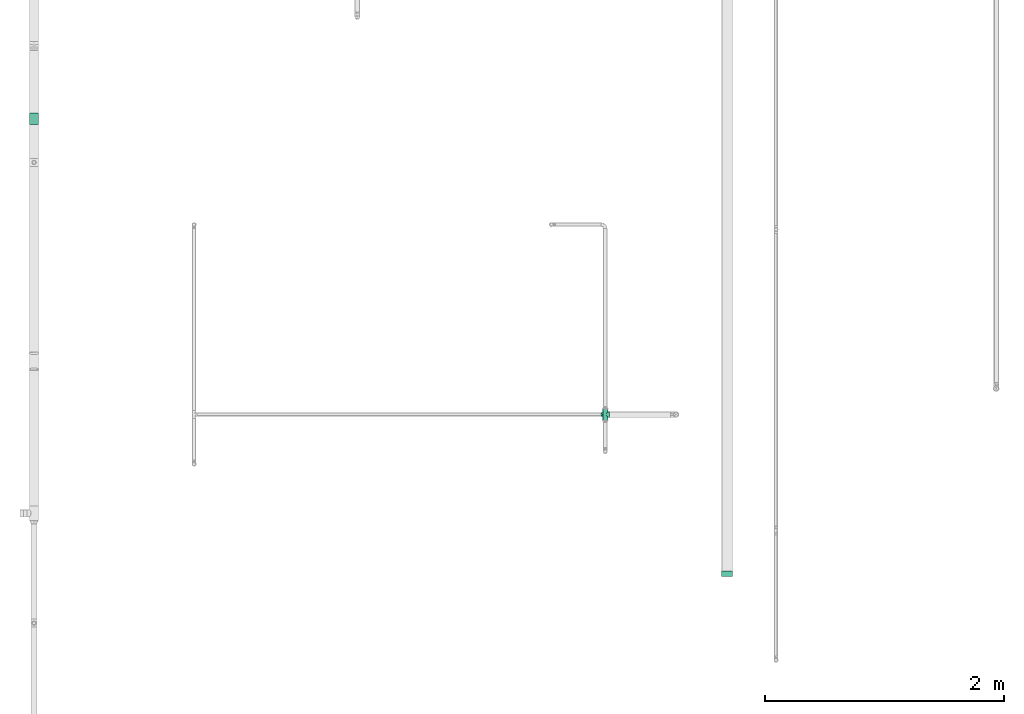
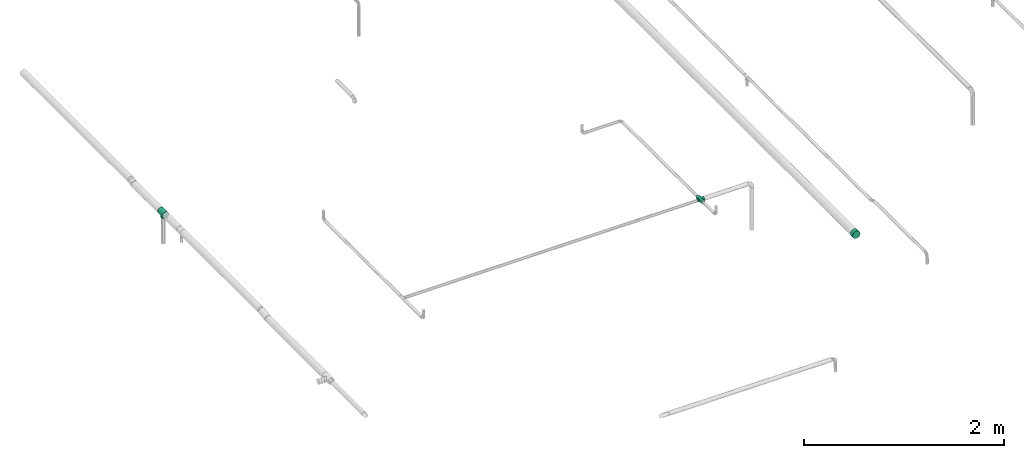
# One storey, part 27 of 32: 3 flow fittings.
"""IFC2X3 building model written with IfcOpenShell, lengths in millimetres."""

import ifcopenshell
import ifcopenshell.guid

model = None  # the IFC model being written
_history = None  # IfcOwnerHistory: only IFC2X3 demands one
_inside = {}  # id of a spatial element -> (the spatial element, [elements in it])
_under = {}  # id of a project, library or spatial element -> (it, [spatial elements below it])
_declared = {}  # id of a project -> (the project, [libraries it declares])
_typed = {}  # id of a type object -> (the type object, [elements of that type])
_made_of = {}  # id of a material, layer set ... -> (it, [elements and type objects made of it])


def new_model(schema):
    """Start an empty IFC model of exactly this schema.

    Asked for "IFC4X3", IfcOpenShell would pick the latest addendum, in which some entities
    have other attributes; the version numbers below select the first issue.
    IFC2X3 requires an IfcOwnerHistory on every rooted entity: one is made here for all.
    """
    global model, _history
    if schema == "IFC4X3":
        model = ifcopenshell.file(schema_version=(4, 3, 0, 0))
    else:
        model = ifcopenshell.file(schema=schema)
    _inside.clear()
    _under.clear()
    _declared.clear()
    _typed.clear()
    _made_of.clear()
    _history = None
    if model.schema == "IFC2X3":
        org = make("IfcOrganization", Name="unknown")
        user = make(
            "IfcPersonAndOrganization",
            ThePerson=make("IfcPerson", FamilyName="unknown"),
            TheOrganization=org,
        )
        app = make(
            "IfcApplication",
            ApplicationDeveloper=org,
            Version="unknown",
            ApplicationFullName="unknown",
            ApplicationIdentifier="unknown",
        )
        _history = make(
            "IfcOwnerHistory",
            OwningUser=user,
            OwningApplication=app,
            ChangeAction="ADDED",
            CreationDate=0,
        )
    return model


def make(cls, **values):
    """One entity of the class cls with the attributes given. An attribute that is None is left unset."""
    return model.create_entity(
        cls, **{name: value for name, value in values.items() if value is not None}
    )


def entity(cls, *values):
    """Any entity or typed value of the class cls, its attributes in the order of the schema. None: left unset."""
    e = model.create_entity(cls)
    for i, value in enumerate(values):
        if value is not None:
            e[i] = value
    return e


def rooted(cls, **values):
    """An entity with a GlobalId (a new one), such as an element, a storey or a relation."""
    return make(cls, GlobalId=ifcopenshell.guid.new(), OwnerHistory=_history, **values)


def si_unit(unit_type, name, prefix=None):
    """IfcSIUnit, for example si_unit("LENGTHUNIT", "METRE", prefix="MILLI")."""
    return make("IfcSIUnit", UnitType=unit_type, Prefix=prefix, Name=name)


def converted_unit(unit_type, name, factor, base, dimensions=None, offset=None):
    """IfcConversionBasedUnit, such as the inch: factor (a typed value) times the base unit."""
    return make(
        "IfcConversionBasedUnit"
        if offset is None
        else "IfcConversionBasedUnitWithOffset",
        ConversionOffset=offset,
        Dimensions=None
        if dimensions is None
        else entity("IfcDimensionalExponents", *dimensions),
        UnitType=unit_type,
        Name=name,
        ConversionFactor=make(
            "IfcMeasureWithUnit", ValueComponent=factor, UnitComponent=base
        ),
    )


def derived_unit(unit_type, elements):
    """IfcDerivedUnit: a product of units, each with its exponent."""
    return make(
        "IfcDerivedUnit",
        Elements=[
            make("IfcDerivedUnitElement", Unit=unit, Exponent=power)
            for unit, power in elements
        ],
        UnitType=unit_type,
    )


def assignment(units):
    """IfcUnitAssignment: the units of a project."""
    return None if units is None else make("IfcUnitAssignment", Units=units)


def point(xyz):
    """IfcCartesianPoint."""
    return None if xyz is None else make("IfcCartesianPoint", Coordinates=xyz)


def direction(xyz):
    """IfcDirection."""
    return None if xyz is None else make("IfcDirection", DirectionRatios=xyz)


def frame(location, z_axis=None, x_axis=None):
    """IfcAxis2Placement3D, a coordinate frame: its origin and axes. An axis left out is left unset."""
    return make(
        "IfcAxis2Placement3D",
        Location=point(location),
        Axis=direction(z_axis),
        RefDirection=direction(x_axis),
    )


def origin_with_axes():
    """The frame at (0, 0, 0) with the z axis (0, 0, 1) and the x axis (1, 0, 0) written out."""
    return frame((0.0, 0.0, 0.0), z_axis=(0.0, 0.0, 1.0), x_axis=(1.0, 0.0, 0.0))


def place(relative_to, where):
    """IfcLocalPlacement: puts the frame where relative to a parent placement (None: the world)."""
    return make(
        "IfcLocalPlacement", PlacementRelTo=relative_to, RelativePlacement=where
    )


def context(
    kind, dimensions, precision=None, world=None, true_north=None, identifier=None
):
    """IfcGeometricRepresentationContext, for example the 3D "Model" context."""
    return make(
        "IfcGeometricRepresentationContext",
        ContextIdentifier=identifier,
        ContextType=kind,
        CoordinateSpaceDimension=dimensions,
        Precision=precision,
        WorldCoordinateSystem=world,
        TrueNorth=true_north,
    )


def subcontext(parent, identifier, kind, view, scale=None):
    """IfcGeometricRepresentationSubContext, for example "Body" below "Model"."""
    return make(
        "IfcGeometricRepresentationSubContext",
        ContextIdentifier=identifier,
        ContextType=kind,
        ParentContext=parent,
        TargetScale=scale,
        TargetView=view,
    )


def project(units=None, contexts=None):
    """IfcProject with its units and contexts."""
    return rooted(
        "IfcProject",
        Name="project",
        RepresentationContexts=contexts,
        UnitsInContext=assignment(units),
    )


def spatial(cls, under=None, at=None, **own):
    """A site, building, storey or space (cls), placed at a placement, below another one or the project."""
    s = rooted(cls, ObjectPlacement=at, **own)
    if under is not None:
        _under.setdefault(under.id(), (under, []))[1].append(s)
    return s


def faces_of(points, faces, orient=None, outer=None):
    """IfcFace entities. A face is a list of loops; a loop is a list of indices into points, from 0.

    orient and outer hold one flag for each loop. By default every Orientation is true, the
    first loop of a face is its IfcFaceOuterBound and the others are IfcFaceBound.
    """
    made = []
    for i, loops in enumerate(faces):
        bounds = []
        for j, loop in enumerate(loops):
            is_outer = j == 0 if outer is None else outer[i][j]
            bounds.append(
                make(
                    "IfcFaceOuterBound" if is_outer else "IfcFaceBound",
                    Bound=make("IfcPolyLoop", Polygon=[points[k] for k in loop]),
                    Orientation=True if orient is None else orient[i][j],
                )
            )
        made.append(make("IfcFace", Bounds=bounds))
    return made


def open_shell(faces, orient=None, outer=None):
    """The faces of one IfcOpenShell. surface_model builds it on its shared points."""
    return ("IfcOpenShell", faces, orient, outer)


def surface_model(cls, points, shells):
    """IfcFaceBasedSurfaceModel or IfcShellBasedSurfaceModel (cls): surfaces that need not close."""
    shared = [point(p) for p in points]
    made = [make(c, CfsFaces=faces_of(shared, fs, o, b)) for c, fs, o, b in shells]
    if cls == "IfcFaceBasedSurfaceModel":
        return make(cls, FbsmFaces=made)
    return make(cls, SbsmBoundary=made)


def shape(context_of_items, identifier, shape_type, items):
    """IfcShapeRepresentation: the items that make up one representation, for example the "Body"."""
    return make(
        "IfcShapeRepresentation",
        ContextOfItems=context_of_items,
        RepresentationIdentifier=identifier,
        RepresentationType=shape_type,
        Items=items,
    )


def source(mapping_origin, context_of_items, identifier, shape_type, items):
    """IfcRepresentationMap: a shape defined once, which mapped items show again and again."""
    return make(
        "IfcRepresentationMap",
        MappingOrigin=mapping_origin,
        MappedRepresentation=shape(context_of_items, identifier, shape_type, items),
    )


def transform(
    local_origin,
    x_axis=None,
    y_axis=None,
    z_axis=None,
    scale=None,
    scale2=None,
    scale3=None,
    uniform=True,
):
    """IfcCartesianTransformationOperator3D, or its non-uniform kind. x_axis, y_axis, z_axis: its Axis1, 2, 3."""
    if uniform:
        return make(
            "IfcCartesianTransformationOperator3D",
            Axis1=direction(x_axis),
            Axis2=direction(y_axis),
            LocalOrigin=point(local_origin),
            Scale=scale,
            Axis3=direction(z_axis),
        )
    return make(
        "IfcCartesianTransformationOperator3DnonUniform",
        Axis1=direction(x_axis),
        Axis2=direction(y_axis),
        LocalOrigin=point(local_origin),
        Scale=scale,
        Axis3=direction(z_axis),
        Scale2=scale2,
        Scale3=scale3,
    )


def mapped(mapping_source, mapping_target):
    """IfcMappedItem: shows the shape of a source again, moved by a transform."""
    return make(
        "IfcMappedItem", MappingSource=mapping_source, MappingTarget=mapping_target
    )


def made_of(thing, what):
    """Note that an element or type object is made of a material, layer set ...; save() writes the relation."""
    if what is not None:
        _made_of.setdefault(what.id(), (what, []))[1].append(thing)
    return thing


def type_object(cls, material=None, **own):
    """A type object (cls), such as IfcWallType, which elements share."""
    return made_of(rooted(cls, **own), material)


def element(
    cls,
    number,
    at=None,
    inside=None,
    cuts=None,
    type_object=None,
    material=None,
    context=None,
    identifier="Body",
    shape_type=None,
    held_by="IfcProductDefinitionShape",
    body=None,
    shapes=None,
    **own,
):
    """One element of the class cls, such as IfcWall. Its Tag is "e" and its number.

    at: its placement. inside: the storey or other place that contains it. cuts: it is an
    opening in that element (IfcRelVoidsElement). A single representation is given by context,
    identifier, shape_type and body (its items); several are given by shapes. held_by: the class
    of the entity that holds the representations. save() writes the other relations.
    """
    e = rooted(cls, Tag="e%d" % number, ObjectPlacement=at, **own)
    if body is not None:
        shapes = [shape(context, identifier, shape_type, body)]
    if shapes is not None:
        e.Representation = make(held_by, Representations=shapes)
    if inside is not None:
        _inside.setdefault(inside.id(), (inside, []))[1].append(e)
    if cuts is not None:
        rooted(
            "IfcRelVoidsElement", RelatingBuildingElement=cuts, RelatedOpeningElement=e
        )
    if type_object is not None:
        _typed.setdefault(type_object.id(), (type_object, []))[1].append(e)
    return made_of(e, material)


def aggregate(whole, parts):
    """IfcRelAggregates: a whole, such as a stair, and the parts it consists of."""
    return rooted("IfcRelAggregates", RelatingObject=whole, RelatedObjects=parts)


def save(model, path):
    """Write the relations noted so far, then the file.

    IfcRelAggregates (storeys below a building ...), IfcRelContainedInSpatialStructure (elements
    in a storey), IfcRelDefinesByType, IfcRelAssociatesMaterial and IfcRelDeclares: one each for
    every whole, place, type object, material and project.
    """
    for whole, parts in _under.values():
        aggregate(whole, parts)
    for where, things in _inside.values():
        rooted(
            "IfcRelContainedInSpatialStructure",
            RelatedElements=things,
            RelatingStructure=where,
        )
    for kind, things in _typed.values():
        rooted("IfcRelDefinesByType", RelatedObjects=things, RelatingType=kind)
    for what, things in _made_of.values():
        rooted("IfcRelAssociatesMaterial", RelatedObjects=things, RelatingMaterial=what)
    for by, libraries in _declared.values():
        rooted("IfcRelDeclares", RelatingContext=by, RelatedDefinitions=libraries)
    model.write(path)


model = new_model("IFC2X3")

# Units and contexts
model_context = context("Model", 3, precision=0.01, world=frame((0.0, 4.29681676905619e-09, 0.0)), true_north=direction((4.01073788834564e-13, 1.0)))
plan_context = context("Plan", 3, precision=0.01, world=frame((0.0, 4.29681676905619e-09, 0.0)), true_north=direction((4.01073788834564e-13, 1.0)))
body_context = subcontext(model_context, "Body", "Model", "MODEL_VIEW")
ifc_project = project(units=[converted_unit("PLANEANGLEUNIT", "DEGREE", entity("IfcPositiveLengthMeasure", 0.0174532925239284), si_unit("PLANEANGLEUNIT", "RADIAN"), dimensions=[0, 0, 0, 0, 0, 0, 0]), si_unit("AREAUNIT", "SQUARE_METRE"), si_unit("LENGTHUNIT", "METRE", prefix="MILLI"), si_unit("MASSUNIT", "GRAM", prefix="KILO"), si_unit("POWERUNIT", "WATT"), si_unit("PRESSUREUNIT", "PASCAL", prefix="KILO"), si_unit("FORCEUNIT", "NEWTON", prefix="KILO"), si_unit("ELECTRICVOLTAGEUNIT", "VOLT"), si_unit("ELECTRICCURRENTUNIT", "AMPERE"), si_unit("THERMODYNAMICTEMPERATUREUNIT", "DEGREE_CELSIUS"), si_unit("TIMEUNIT", "SECOND"), si_unit("VOLUMEUNIT", "CUBIC_METRE"), derived_unit("LINEARVELOCITYUNIT", [(si_unit("LENGTHUNIT", "METRE"), 1), (si_unit("TIMEUNIT", "SECOND"), -1)]), derived_unit("VOLUMETRICFLOWRATEUNIT", [(si_unit("VOLUMEUNIT", "CUBIC_METRE"), 1), (si_unit("TIMEUNIT", "SECOND"), -1)]), derived_unit("THERMALTRANSMITTANCEUNIT", [(si_unit("POWERUNIT", "WATT"), 1), (si_unit("THERMODYNAMICTEMPERATUREUNIT", "KELVIN"), -1), (si_unit("AREAUNIT", "SQUARE_METRE"), -1)]), derived_unit("SOUNDPRESSUREUNIT", [(si_unit("PRESSUREUNIT", "PASCAL"), 1)])], contexts=[model_context, plan_context])

# Site, building, storey
site_placement = place(None, frame((0.0, -4.29681676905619e-09, 0.0), z_axis=(0.0, 0.0, 1.0), x_axis=(1.0, 0.0, 0.0)))
site = spatial("IfcSite", under=ifc_project, at=site_placement, CompositionType="ELEMENT")
building_placement = place(site_placement, frame((0.0, 4.29681676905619e-09, 0.0), z_axis=(0.0, 0.0, 1.0), x_axis=(1.0, 0.0, 0.0)))
building = spatial("IfcBuilding", under=site, at=building_placement, Name="mc-building", CompositionType="ELEMENT")
storey_placement = place(building_placement, frame((0.0, 0.0, 205200.0), z_axis=(0.0, 0.0, 1.0), x_axis=(1.0, 0.0, 0.0)))
storey = spatial("IfcBuildingStorey", under=building, at=storey_placement, Name="Nivå D + 1,2 m", CompositionType="ELEMENT", Elevation=205200.0)

# Flow fittings
pipe_fitting_type_1 = type_object("IfcPipeFittingType", Name="magi_pipe_fe_plug_001", PredefinedType="OBSTRUCTION")
shared_shape_1 = source(origin_with_axes(), body_context, "Body", "SurfaceModel", [
    surface_model("IfcShellBasedSurfaceModel", [(0.0, 11.51745, -42.9837), (0.0, 0.0, -44.5), (0.0, 31.46625, -31.46625), (0.0, 22.25, -38.53813), (0.0, 38.53813, -22.25), (0.0, 22.25, 38.53813), (0.0, -31.46625, -31.46625), (0.0, -44.5, 0.0), (0.0, -22.25, -38.53813), (0.0, -11.51745, -42.9837), (0.0, -42.9837, -11.51745), (0.0, -38.53813, -22.25), (0.0, 42.9837, -11.51745), (0.0, 42.9837, 11.51745), (0.0, 44.5, 0.0), (0.0, 38.53813, 22.25), (0.0, 31.46625, 31.46625), (0.0, -22.25, 38.53813), (0.0, 11.51745, 42.9837), (0.0, 0.0, 44.5), (0.0, -31.46625, 31.46625), (0.0, -38.53813, 22.25), (0.0, -42.9837, 11.51745), (0.0, -11.51745, 42.9837), (44.5, 31.46625, -31.46625), (44.5, 0.0, -44.5), (44.5, 11.51745, -42.9837), (44.5, 22.25, -38.53813), (44.5, 22.25, 38.53813), (44.5, 38.53813, -22.25), (44.5, -31.46625, -31.46625), (44.5, -11.51745, -42.9837), (44.5, -22.25, -38.53813), (44.5, -38.53813, -22.25), (44.5, -44.5, 0.0), (44.5, -42.9837, -11.51745), (44.5, -22.25, 38.53813), (44.5, 42.9837, -11.51745), (44.5, 44.5, 0.0), (44.5, 42.9837, 11.51745), (44.5, 31.46625, 31.46625), (44.5, 38.53813, 22.25), (44.5, 0.0, 44.5), (44.5, 11.51745, 42.9837), (44.5, -38.53813, 22.25), (44.5, -31.46625, 31.46625), (44.5, -42.9837, 11.51745), (44.5, -11.51745, 42.9837)], [open_shell([[[0, 1, 2]], [[3, 0, 2]], [[4, 2, 5]], [[6, 2, 1]], [[2, 7, 5]], [[8, 6, 9]], [[6, 1, 9]], [[10, 7, 11]], [[6, 11, 7]], [[6, 7, 2]], [[12, 4, 5]], [[13, 14, 5]], [[15, 13, 16]], [[5, 7, 17]], [[16, 13, 5]], [[18, 5, 19]], [[20, 17, 21]], [[7, 22, 21]], [[17, 7, 21]], [[17, 23, 5]], [[23, 19, 5]], [[14, 12, 5]], [[24, 25, 26]], [[24, 26, 27]], [[28, 24, 29]], [[25, 24, 30]], [[24, 28, 30]], [[31, 30, 32]], [[31, 25, 30]], [[33, 34, 35]], [[34, 33, 30]], [[30, 36, 34]], [[28, 29, 37]], [[28, 38, 39]], [[40, 39, 41]], [[36, 30, 28]], [[28, 39, 40]], [[42, 28, 43]], [[44, 36, 45]], [[44, 46, 34]], [[44, 34, 36]], [[28, 47, 36]], [[28, 42, 47]], [[28, 37, 38]], [[46, 7, 34]], [[44, 22, 46]], [[36, 47, 17]], [[44, 45, 21]], [[45, 36, 20]], [[44, 21, 22]], [[22, 7, 46]], [[23, 17, 47]], [[23, 47, 19]], [[20, 21, 45]], [[20, 36, 17]], [[47, 42, 19]], [[5, 43, 28]], [[40, 16, 28]], [[13, 41, 39]], [[40, 41, 15]], [[14, 39, 38]], [[43, 18, 42]], [[43, 5, 18]], [[42, 18, 19]], [[28, 16, 5]], [[40, 15, 16]], [[13, 15, 41]], [[39, 14, 13]], [[37, 14, 38]], [[29, 12, 37]], [[2, 24, 27]], [[29, 24, 4]], [[3, 27, 26]], [[29, 4, 12]], [[12, 14, 37]], [[25, 1, 0]], [[2, 27, 3]], [[2, 4, 24]], [[26, 0, 3]], [[0, 26, 25]], [[8, 31, 32]], [[30, 6, 32]], [[10, 33, 35]], [[30, 33, 11]], [[7, 35, 34]], [[31, 9, 25]], [[31, 8, 9]], [[25, 9, 1]], [[32, 6, 8]], [[30, 11, 6]], [[10, 11, 33]], [[35, 7, 10]]])]),
])
flow_fitting_1_placement = place(storey_placement, frame((329287.41659, 461167.22069, 4392.43145999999), z_axis=(0.0, 0.0, 1.0), x_axis=(0.0, -1.0, 0.0)))
element("IfcFlowFitting", 1, at=flow_fitting_1_placement, inside=storey, type_object=pipe_fitting_type_1, Name="magi_pipe_fe_plug_001", context=body_context, shape_type="MappedRepresentation", body=[
    mapped(shared_shape_1, transform((0.0, 0.0, 0.0), scale=1.0)),
])
pipe_fitting_type_2 = type_object("IfcPipeFittingType", Name="magi_pipe_fe_tee_centric_90_001", PredefinedType="JUNCTION")
shared_shape_2 = source(origin_with_axes(), body_context, "Body", "SurfaceModel", [
    surface_model("IfcShellBasedSurfaceModel", [(-48.4, 9.86101, -36.80177), (-48.4, 0.0, -38.1), (-48.4, 36.80177, -9.86101), (-48.4, 19.05, -32.99557), (-48.4, 32.99557, -19.05), (-48.4, 26.94077, -26.94077), (-48.4, -38.1, 0.0), (-48.4, -19.05, -32.99557), (-48.4, -26.94077, -26.94077), (-48.4, -9.86101, -36.80177), (-48.4, -32.99557, -19.05), (-48.4, -36.80177, -9.86101), (-48.4, 38.1, 0.0), (-48.4, 32.99557, 19.05), (-48.4, 36.80177, 9.86101), (-48.4, -36.80177, 9.86101), (-48.4, 19.05, 32.99557), (-48.4, 26.94077, 26.94077), (-48.4, 9.86101, 36.80177), (-48.4, 0.0, 38.1), (-48.4, -26.94077, 26.94077), (-48.4, -32.99557, 19.05), (-48.4, -9.86101, 36.80177), (-48.4, -19.05, 32.99557), (48.4, 0.0, -38.1), (48.4, 9.86101, -36.80177), (48.4, 19.05, -32.99557), (48.4, 26.94077, -26.94077), (48.4, 32.99557, -19.05), (48.4, 36.80177, -9.86101), (48.4, -26.94077, -26.94077), (48.4, -38.1, 0.0), (48.4, -9.86101, -36.80177), (48.4, -19.05, -32.99557), (48.4, -32.99557, -19.05), (48.4, -36.80177, -9.86101), (48.4, 36.80177, 9.86101), (48.4, 32.99557, 19.05), (48.4, 19.05, 32.99557), (48.4, 0.0, 38.1), (48.4, 26.94077, 26.94077), (48.4, 9.86101, 36.80177), (48.4, -32.99557, 19.05), (48.4, -26.94077, 26.94077), (48.4, -36.80177, 9.86101), (48.4, -19.05, 32.99557), (48.4, -9.86101, 36.80177), (48.4, 38.1, 0.0), (22.67163, -37.14799, 8.46387), (24.2, -38.1, 0.0), (18.4612, -34.73882, 15.64686), (12.20123, -31.85656, 20.89904), (4.31503, -29.74205, 23.81219), (48.4, -34.89867, 14.4555), (-18.46661, -34.7417, 15.64047), (-48.4, -34.89867, 14.4555), (-24.2, -38.1, 0.0), (-22.67247, -37.1485, 8.46164), (-12.20341, -31.85739, 20.89777), (-4.32227, -29.7431, 23.81088), (12.20123, -31.85656, -20.89904), (-18.46661, -34.7417, -15.64047), (-48.4, -34.89867, -14.4555), (4.31503, -29.74205, -23.81219), (18.4612, -34.73882, -15.64686), (22.67163, -37.14799, -8.46387), (48.4, -34.89867, -14.4555), (-4.32227, -29.7431, -23.81088), (-12.20341, -31.85739, -20.89777), (-22.67247, -37.1485, -8.46164), (0.0, -57.15, -24.2), (6.26342, -57.15, -23.37541), (12.1, -57.15, -20.95781), (12.1, -57.15, 20.95781), (17.11198, -57.15, -17.11198), (20.95781, -57.15, -12.1), (23.37541, -57.15, -6.26342), (-12.1, -57.15, -20.95781), (-20.95781, -57.15, -12.1), (-17.11198, -57.15, -17.11198), (-6.26342, -57.15, -23.37541), (-23.37541, -57.15, -6.26342), (-24.2, -57.15, 0.0), (24.2, -57.15, 0.0), (23.37541, -57.15, 6.26342), (20.95781, -57.15, 12.1), (-23.37541, -57.15, 6.26342), (17.11198, -57.15, 17.11198), (6.26342, -57.15, 23.37541), (-17.11198, -57.15, 17.11198), (-20.95781, -57.15, 12.1), (-12.1, -57.15, 20.95781), (0.0, -57.15, 24.2), (-6.26342, -57.15, 23.37541), (-23.43623, -37.62425, 4.23082), (-0.00362, -29.74257, 23.81153), (8.25813, -30.7993, 22.35562), (23.43582, -37.62399, 4.23193), (23.43582, -37.62399, -4.23193), (-23.43623, -37.62425, -4.23082), (8.25813, -30.7993, -22.35562), (-0.00362, -29.74257, -23.81153)], [open_shell([[[0, 1, 2]], [[3, 0, 2]], [[2, 4, 5]], [[3, 2, 5]], [[6, 2, 1]], [[7, 8, 9]], [[8, 1, 9]], [[10, 11, 8]], [[6, 8, 11]], [[8, 6, 1]], [[6, 12, 2]], [[13, 14, 12]], [[13, 12, 15]], [[16, 13, 15]], [[17, 13, 16]], [[18, 16, 19]], [[20, 19, 21]], [[16, 15, 21]], [[22, 19, 23]], [[20, 23, 19]], [[21, 19, 16]], [[6, 15, 12]], [[24, 25, 26]], [[24, 26, 27]], [[27, 28, 29]], [[24, 27, 30]], [[31, 27, 29]], [[32, 30, 33]], [[32, 24, 30]], [[34, 31, 35]], [[31, 34, 30]], [[27, 31, 30]], [[29, 36, 31]], [[36, 37, 31]], [[31, 37, 38]], [[38, 39, 31]], [[38, 37, 40]], [[39, 38, 41]], [[42, 39, 43]], [[44, 31, 42]], [[45, 39, 46]], [[39, 45, 43]], [[39, 42, 31]], [[36, 29, 47]], [[31, 44, 48]], [[48, 49, 31]], [[44, 50, 48]], [[42, 43, 51]], [[51, 50, 42]], [[52, 51, 43]], [[43, 20, 52]], [[42, 50, 53]], [[54, 21, 55]], [[56, 57, 6]], [[15, 6, 57]], [[57, 54, 15]], [[58, 59, 20]], [[58, 21, 54]], [[21, 58, 20]], [[54, 55, 15]], [[59, 52, 20]], [[50, 44, 53]], [[43, 23, 20]], [[19, 46, 39]], [[22, 45, 46]], [[18, 39, 41]], [[37, 36, 14]], [[17, 38, 40]], [[13, 40, 37]], [[41, 38, 16]], [[12, 36, 47]], [[23, 45, 22]], [[22, 46, 19]], [[18, 19, 39]], [[41, 16, 18]], [[16, 38, 17]], [[13, 17, 40]], [[14, 13, 37]], [[36, 12, 14]], [[45, 23, 43]], [[12, 47, 29]], [[28, 27, 4]], [[2, 29, 28]], [[24, 32, 9]], [[0, 26, 25]], [[1, 25, 24]], [[26, 3, 27]], [[7, 32, 33]], [[4, 27, 5]], [[12, 29, 2]], [[2, 28, 4]], [[5, 27, 3]], [[26, 0, 3]], [[1, 0, 25]], [[9, 1, 24]], [[32, 7, 9]], [[33, 8, 7]], [[30, 34, 60]], [[61, 11, 62]], [[60, 63, 30]], [[34, 64, 60]], [[30, 63, 8]], [[35, 31, 65]], [[65, 64, 35]], [[49, 65, 31]], [[35, 64, 66]], [[67, 68, 8]], [[64, 34, 66]], [[10, 8, 68]], [[68, 61, 10]], [[67, 8, 63]], [[61, 69, 11]], [[69, 6, 11]], [[6, 69, 56]], [[61, 62, 10]], [[30, 8, 33]], [[70, 71, 72]], [[73, 70, 72]], [[74, 75, 76]], [[74, 76, 72]], [[73, 77, 70]], [[77, 78, 79]], [[77, 80, 70]], [[77, 81, 78]], [[81, 77, 82]], [[77, 73, 82]], [[83, 72, 76]], [[83, 84, 85]], [[83, 85, 73]], [[73, 86, 82]], [[73, 85, 87]], [[86, 73, 88]], [[86, 89, 90]], [[86, 88, 89]], [[91, 92, 93]], [[92, 91, 89]], [[88, 92, 89]], [[73, 72, 83]], [[86, 94, 82]], [[54, 90, 89]], [[86, 90, 57]], [[89, 91, 58]], [[94, 56, 82]], [[57, 90, 54]], [[58, 93, 59]], [[58, 54, 89]], [[92, 52, 95]], [[58, 91, 93]], [[73, 96, 88]], [[97, 83, 49]], [[86, 57, 94]], [[88, 52, 92]], [[48, 85, 84]], [[97, 48, 84]], [[85, 50, 87]], [[92, 59, 93]], [[96, 52, 88]], [[73, 51, 96]], [[73, 87, 51]], [[51, 87, 50]], [[50, 85, 48]], [[83, 97, 84]], [[95, 59, 92]], [[76, 98, 83]], [[64, 75, 74]], [[99, 69, 81]], [[76, 75, 65]], [[74, 72, 60]], [[98, 49, 83]], [[65, 75, 64]], [[71, 63, 100]], [[60, 64, 74]], [[70, 67, 101]], [[70, 63, 71]], [[100, 60, 72]], [[100, 72, 71]], [[76, 65, 98]], [[68, 77, 79]], [[68, 80, 77]], [[69, 78, 81]], [[79, 78, 61]], [[99, 82, 56]], [[67, 70, 80]], [[80, 68, 67]], [[101, 63, 70]], [[68, 79, 61]], [[61, 78, 69]], [[82, 99, 81]]])]),
])
flow_fitting_2_placement = place(storey_placement, frame((323497.5, 464949.29062, 4367.43145999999), z_axis=(1.0, 0.0, 0.0), x_axis=(0.0, 1.0, 0.0)))
element("IfcFlowFitting", 2, at=flow_fitting_2_placement, inside=storey, type_object=pipe_fitting_type_2, Name="magi_pipe_fe_tee_centric_90_001", context=body_context, shape_type="MappedRepresentation", body=[
    mapped(shared_shape_2, transform((0.0, 0.0, 0.0), scale=1.0)),
])
pipe_fitting_type_3 = type_object("IfcPipeFittingType", Name="magi_pipe_fe_cross_centric_90_001", PredefinedType="JUNCTION")
shared_shape_3 = source(origin_with_axes(), body_context, "Body", "SurfaceModel", [
    surface_model("IfcShellBasedSurfaceModel", [(-48.4, 12.1, -20.95781), (-48.4, 6.26342, -23.37541), (-48.4, 17.11198, -17.11198), (-48.4, -20.95781, 12.1), (-48.4, -17.11198, 17.11198), (-48.4, -23.37541, 6.26342), (4.37404, -36.3, -16.32415), (-16.9, -36.3, 0.0), (0.0, -36.3, -16.9), (14.63583, -36.3, -8.45), (8.45, -36.3, -14.63583), (16.32415, -36.3, -4.37404), (11.9501, -36.3, -11.9501), (-11.9501, -36.3, -11.9501), (-8.45, -36.3, -14.63583), (-4.37404, -36.3, -16.32415), (-14.63583, -36.3, -8.45), (-16.32415, -36.3, -4.37404), (16.9, -36.3, 0.0), (8.45, -36.3, 14.63583), (16.32415, -36.3, 4.37404), (14.63583, -36.3, 8.45), (-8.45, -36.3, 14.63583), (11.9501, -36.3, 11.9501), (4.37404, -36.3, 16.32415), (-16.32415, -36.3, 4.37404), (-11.9501, -36.3, 11.9501), (-14.63583, -36.3, 8.45), (0.0, -36.3, 16.9), (-4.37404, -36.3, 16.32415), (-16.35943, -23.82888, 2.9738), (-12.87368, -21.58151, 10.9489), (-15.81885, -23.45775, 5.9476), (-8.52961, -19.30762, 14.58958), (-16.9, -24.2, 0.0), (16.35912, -23.82867, 2.97461), (15.81824, -23.45734, 5.94922), (-3.04044, -17.58619, 16.62425), (3.03527, -17.5853, 16.6252), (-0.00259, -17.58575, 16.62472), (8.52813, -19.30697, 14.59044), (12.87025, -21.57947, 10.95293), (16.9, -24.2, 0.0), (16.35912, -23.82867, -2.97461), (12.87025, -21.57947, -10.95293), (15.81824, -23.45734, -5.94922), (8.52813, -19.30697, -14.59044), (3.03527, -17.5853, -16.6252), (-3.04044, -17.58619, -16.62425), (-0.00259, -17.58575, -16.62472), (-16.35943, -23.82888, -2.9738), (-15.81885, -23.45775, -5.9476), (-12.87368, -21.58151, -10.9489), (-8.52961, -19.30762, -14.58958), (-48.4, 0.0, -24.2), (-48.4, -6.26342, -23.37541), (-48.4, 20.95781, -12.1), (-48.4, -23.37541, -6.26342), (-48.4, 23.37541, -6.26342), (-48.4, -12.1, -20.95781), (-48.4, -17.11198, -17.11198), (-48.4, -20.95781, -12.1), (-48.4, -24.2, 0.0), (-48.4, 20.95781, 12.1), (-48.4, 23.37541, 6.26342), (-48.4, 24.2, 0.0), (-48.4, 12.1, 20.95781), (-48.4, 17.11198, 17.11198), (-48.4, 6.26342, 23.37541), (-48.4, -12.1, 20.95781), (-48.4, -6.26342, 23.37541), (-48.4, 0.0, 24.2), (48.4, 6.26342, -23.37541), (48.4, -6.26342, -23.37541), (48.4, 0.0, -24.2), (48.4, 17.11198, -17.11198), (48.4, 12.1, -20.95781), (48.4, -23.37541, -6.26342), (48.4, 20.95781, -12.1), (48.4, 23.37541, -6.26342), (48.4, -17.11198, -17.11198), (48.4, -12.1, -20.95781), (48.4, -20.95781, -12.1), (48.4, -24.2, 0.0), (48.4, 24.2, 0.0), (48.4, 23.37541, 6.26342), (48.4, 20.95781, 12.1), (48.4, -23.37541, 6.26342), (48.4, -17.11198, 17.11198), (48.4, 12.1, 20.95781), (48.4, 17.11198, 17.11198), (48.4, 6.26342, 23.37541), (48.4, -20.95781, 12.1), (48.4, -12.1, 20.95781), (48.4, 0.0, 24.2), (48.4, -6.26342, 23.37541), (0.0, 0.0, 24.2), (-4.647, 4.647, 23.74964), (4.647, 4.647, 23.74964), (9.20594, 9.20594, 22.38059), (13.56365, 13.56365, 20.04164), (17.56065, 17.56065, 16.65123), (23.32218, 23.32218, 6.45878), (24.2, 24.2, 0.0), (20.94524, 20.94524, 12.12176), (-9.20594, 9.20594, 22.38059), (-13.56365, 13.56365, 20.04164), (-17.56065, 17.56065, 16.65123), (-20.94524, 20.94524, 12.12176), (-23.32218, 23.32218, 6.45878), (-24.2, 24.2, 0.0), (23.32218, 23.32218, -6.45878), (20.94524, 20.94524, -12.12176), (17.56065, 17.56065, -16.65123), (13.56365, 13.56365, -20.04164), (9.20594, 9.20594, -22.38059), (-23.32218, 23.32218, -6.45878), (-20.94524, 20.94524, -12.12176), (-17.56065, 17.56065, -16.65123), (-9.20594, 9.20594, -22.38059), (-4.647, 4.647, -23.74964), (-13.56365, 13.56365, -20.04164), (4.647, 4.647, -23.74964), (0.0, 0.0, -24.2), (0.0, 36.3, -24.2), (-6.26342, 36.3, -23.37541), (-12.1, 36.3, -20.95781), (-17.11198, 36.3, -17.11198), (-20.95781, 36.3, -12.1), (-23.37541, 36.3, -6.26342), (24.2, 36.3, 0.0), (23.37541, 36.3, 6.26342), (12.1, 36.3, -20.95781), (20.95781, 36.3, -12.1), (17.11198, 36.3, -17.11198), (6.26342, 36.3, -23.37541), (23.37541, 36.3, -6.26342), (-24.2, 36.3, 0.0), (-23.37541, 36.3, 6.26342), (-20.95781, 36.3, 12.1), (-17.11198, 36.3, 17.11198), (17.11198, 36.3, 17.11198), (-12.1, 36.3, 20.95781), (-6.26342, 36.3, 23.37541), (20.95781, 36.3, 12.1), (6.26342, 36.3, 23.37541), (12.1, 36.3, 20.95781), (0.0, 36.3, 24.2)], [open_shell([[[0, 1, 2]], [[3, 4, 5]], [[6, 7, 8]], [[9, 6, 10]], [[9, 11, 6]], [[9, 10, 12]], [[7, 6, 11]], [[8, 13, 14]], [[14, 15, 8]], [[16, 7, 17]], [[13, 8, 16]], [[7, 16, 8]], [[11, 18, 7]], [[19, 18, 20]], [[19, 20, 21]], [[22, 7, 19]], [[19, 21, 23]], [[22, 19, 24]], [[25, 26, 27]], [[26, 25, 22]], [[22, 28, 29]], [[25, 7, 22]], [[24, 28, 22]], [[19, 7, 18]], [[25, 30, 7]], [[31, 27, 26]], [[25, 27, 32]], [[26, 22, 33]], [[25, 32, 30]], [[30, 34, 7]], [[32, 27, 31]], [[35, 36, 20]], [[33, 29, 37]], [[33, 31, 26]], [[28, 38, 39]], [[33, 22, 29]], [[38, 28, 24]], [[19, 40, 24]], [[23, 21, 41]], [[23, 40, 19]], [[36, 21, 20]], [[23, 41, 40]], [[40, 38, 24]], [[18, 35, 20]], [[36, 41, 21]], [[35, 18, 42]], [[28, 37, 29]], [[39, 37, 28]], [[11, 43, 18]], [[44, 9, 12]], [[11, 9, 45]], [[12, 10, 46]], [[43, 42, 18]], [[45, 9, 44]], [[46, 6, 47]], [[46, 44, 12]], [[8, 48, 49]], [[46, 10, 6]], [[50, 7, 34]], [[50, 51, 17]], [[11, 45, 43]], [[15, 48, 8]], [[51, 16, 17]], [[13, 16, 52]], [[8, 47, 6]], [[15, 53, 48]], [[53, 15, 14]], [[14, 13, 53]], [[53, 13, 52]], [[52, 16, 51]], [[7, 50, 17]], [[49, 47, 8]], [[54, 55, 1]], [[56, 1, 57]], [[2, 1, 56]], [[58, 56, 57]], [[59, 60, 55]], [[61, 55, 60]], [[55, 61, 1]], [[61, 57, 1]], [[57, 62, 58]], [[62, 5, 58]], [[63, 64, 65]], [[63, 65, 5]], [[66, 67, 4]], [[5, 67, 63]], [[68, 66, 4]], [[4, 67, 5]], [[69, 70, 4]], [[71, 4, 70]], [[4, 71, 68]], [[58, 5, 65]], [[72, 73, 74]], [[75, 72, 76]], [[77, 72, 78]], [[78, 72, 75]], [[77, 78, 79]], [[73, 80, 81]], [[80, 73, 82]], [[72, 82, 73]], [[72, 77, 82]], [[79, 83, 77]], [[79, 84, 83]], [[84, 85, 86]], [[87, 84, 86]], [[88, 86, 89]], [[89, 86, 90]], [[88, 89, 91]], [[87, 88, 92]], [[87, 86, 88]], [[93, 94, 95]], [[94, 93, 88]], [[91, 94, 88]], [[84, 87, 83]], [[36, 83, 87]], [[41, 87, 92]], [[36, 42, 83]], [[41, 36, 87]], [[92, 40, 41]], [[69, 38, 93]], [[95, 70, 93]], [[40, 88, 38]], [[88, 40, 92]], [[38, 88, 93]], [[95, 94, 96]], [[32, 31, 5]], [[34, 32, 62]], [[32, 5, 62]], [[5, 31, 3]], [[31, 33, 3]], [[4, 33, 37]], [[95, 96, 70]], [[37, 38, 69]], [[4, 37, 69]], [[93, 70, 69]], [[96, 71, 70]], [[71, 96, 97]], [[33, 4, 3]], [[96, 94, 98]], [[99, 91, 89]], [[100, 89, 90]], [[99, 98, 91]], [[100, 99, 89]], [[90, 101, 100]], [[91, 98, 94]], [[102, 86, 85]], [[103, 85, 84]], [[104, 101, 86]], [[103, 102, 85]], [[104, 86, 102]], [[86, 101, 90]], [[105, 106, 66]], [[97, 105, 68]], [[105, 66, 68]], [[66, 106, 67]], [[106, 107, 67]], [[97, 68, 71]], [[108, 109, 63]], [[107, 108, 63]], [[63, 109, 64]], [[110, 65, 64]], [[109, 110, 64]], [[107, 63, 67]], [[103, 84, 79]], [[111, 79, 78]], [[111, 103, 79]], [[112, 111, 78]], [[78, 113, 112]], [[114, 75, 76]], [[115, 76, 72]], [[114, 113, 75]], [[115, 114, 76]], [[75, 113, 78]], [[116, 117, 56]], [[110, 116, 58]], [[110, 58, 65]], [[58, 116, 56]], [[117, 118, 56]], [[119, 120, 1]], [[121, 119, 0]], [[118, 2, 56]], [[118, 121, 2]], [[2, 121, 0]], [[119, 1, 0]], [[120, 54, 1]], [[115, 72, 122]], [[81, 59, 73]], [[47, 81, 80]], [[122, 74, 123]], [[74, 122, 72]], [[73, 123, 74]], [[47, 59, 81]], [[80, 46, 47]], [[44, 82, 77]], [[45, 77, 83]], [[44, 46, 82]], [[42, 45, 83]], [[44, 77, 45]], [[82, 46, 80]], [[55, 54, 123]], [[54, 120, 123]], [[59, 47, 48]], [[73, 59, 55]], [[73, 55, 123]], [[59, 48, 60]], [[48, 53, 60]], [[52, 51, 57]], [[53, 52, 61]], [[61, 52, 57]], [[62, 57, 51]], [[34, 62, 51]], [[53, 61, 60]], [[124, 125, 126]], [[124, 126, 127]], [[127, 128, 129]], [[130, 124, 131]], [[127, 131, 124]], [[132, 133, 134]], [[132, 135, 124]], [[124, 133, 132]], [[124, 136, 133]], [[130, 136, 124]], [[127, 129, 137]], [[137, 138, 139]], [[137, 139, 140]], [[141, 140, 142]], [[140, 131, 137]], [[141, 142, 143]], [[131, 141, 144]], [[131, 140, 141]], [[141, 145, 146]], [[145, 141, 147]], [[143, 147, 141]], [[137, 131, 127]], [[130, 131, 103]], [[102, 103, 131]], [[141, 146, 100]], [[102, 131, 144]], [[141, 101, 144]], [[99, 146, 145]], [[104, 102, 144]], [[101, 104, 144]], [[99, 100, 146]], [[147, 96, 98]], [[99, 145, 98]], [[101, 141, 100]], [[98, 145, 147]], [[97, 147, 143]], [[142, 105, 143]], [[139, 138, 109]], [[107, 140, 139]], [[106, 142, 140]], [[110, 138, 137]], [[105, 97, 143]], [[106, 105, 142]], [[110, 109, 138]], [[108, 107, 139]], [[109, 108, 139]], [[106, 140, 107]], [[147, 97, 96]], [[137, 129, 110]], [[116, 110, 129]], [[118, 128, 127]], [[127, 126, 121]], [[128, 116, 129]], [[119, 126, 125]], [[117, 116, 128]], [[118, 117, 128]], [[119, 121, 126]], [[124, 123, 120]], [[119, 125, 120]], [[118, 127, 121]], [[120, 125, 124]], [[122, 124, 135]], [[132, 115, 135]], [[133, 136, 111]], [[113, 134, 133]], [[114, 132, 134]], [[103, 136, 130]], [[115, 122, 135]], [[114, 115, 132]], [[103, 111, 136]], [[112, 113, 133]], [[111, 112, 133]], [[114, 134, 113]], [[124, 122, 123]]])]),
])
flow_fitting_3_placement = place(storey_placement, frame((328269.97595, 462475.84044, 4357.43145999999), z_axis=(0.0, 0.0, 1.0), x_axis=(0.0, -1.0, 0.0)))
element("IfcFlowFitting", 3, at=flow_fitting_3_placement, inside=storey, type_object=pipe_fitting_type_3, Name="magi_pipe_fe_cross_centric_90_001", context=body_context, shape_type="MappedRepresentation", body=[
    mapped(shared_shape_3, transform((0.0, 0.0, 0.0), scale=1.0)),
])

save(model, "model.ifc")
